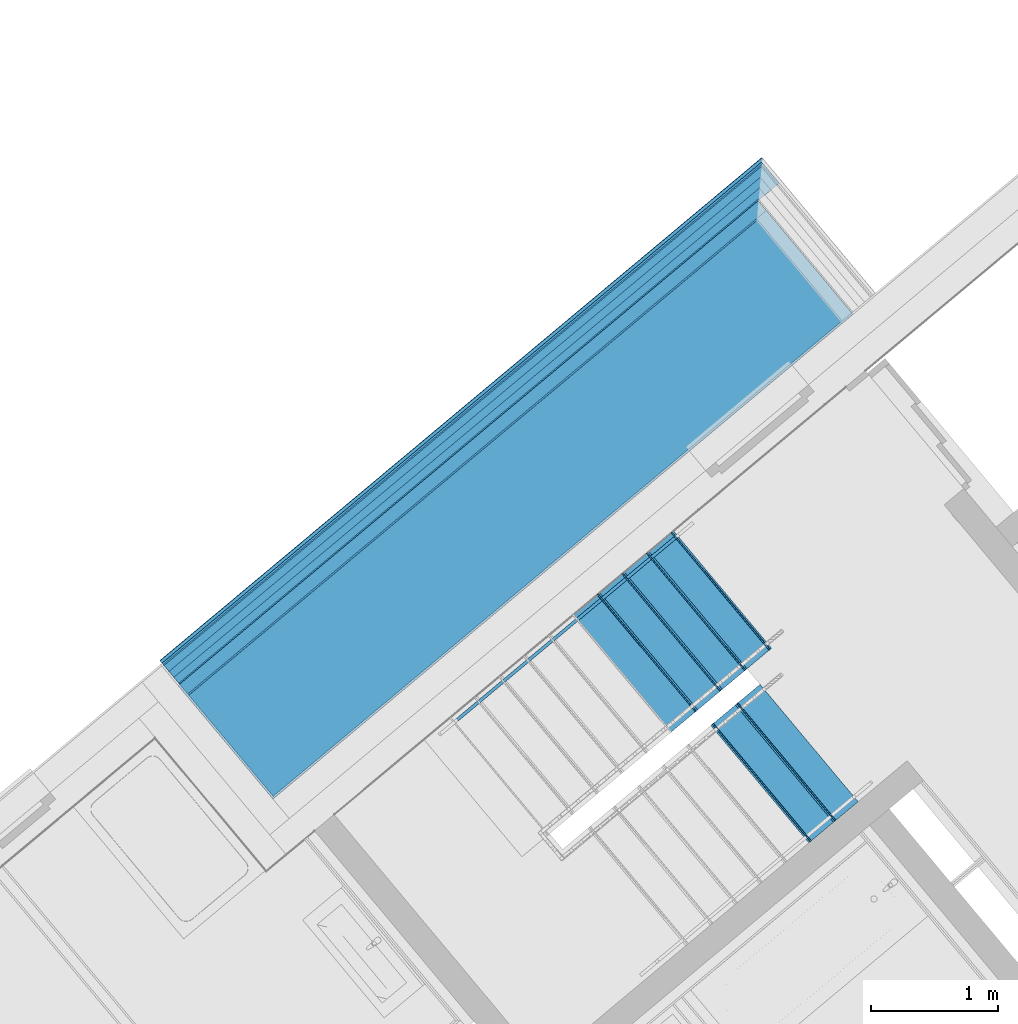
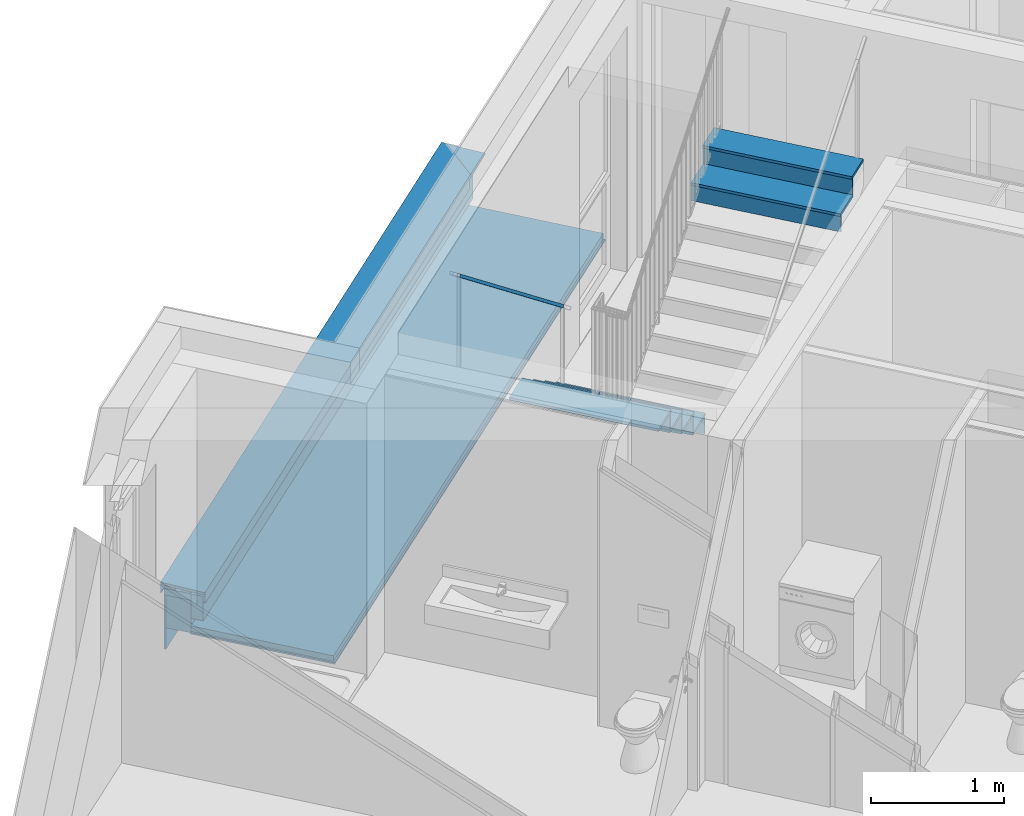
# One storey, part 33 of 53: 23 building element parts, 4 elements without a shape of their own.
"""IFC4 building model written with IfcOpenShell, lengths in metres."""

from ifc_helpers import new_model, entity, si_unit, converted_unit, derived_unit, direction, frame, origin_with_axes, place, context, subcontext, project, spatial, polygons, material, type_object, element, aggregate, save


model = new_model("IFC4")

# Units and contexts
model_context = context("Model", 3, precision=1e-05, world=origin_with_axes(), true_north=direction((0.0, 1.0)))
body_context = subcontext(model_context, "Body", "Model", "MODEL_VIEW")
ifc_project = project(units=[si_unit("LENGTHUNIT", "METRE"), si_unit("AREAUNIT", "SQUARE_METRE"), si_unit("VOLUMEUNIT", "CUBIC_METRE"), converted_unit("PLANEANGLEUNIT", "DEGREE", entity("IfcPlaneAngleMeasure", 0.0174532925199), si_unit("PLANEANGLEUNIT", "RADIAN"), dimensions=[0, 0, 0, 0, 0, 0, 0]), converted_unit("TIMEUNIT", "Year", entity("IfcTimeMeasure", 31556926.0), si_unit("TIMEUNIT", "SECOND"), dimensions=[0, 0, 1, 0, 0, 0, 0]), si_unit("MASSUNIT", "GRAM", prefix="KILO"), si_unit("THERMODYNAMICTEMPERATUREUNIT", "DEGREE_CELSIUS"), si_unit("LUMINOUSINTENSITYUNIT", "LUMEN"), si_unit("ENERGYUNIT", "JOULE", prefix="MEGA"), derived_unit("THERMALCONDUCTANCEUNIT", [(si_unit("POWERUNIT", "WATT"), 1), (si_unit("LENGTHUNIT", "METRE"), -1), (si_unit("THERMODYNAMICTEMPERATUREUNIT", "KELVIN"), -1)]), derived_unit("SPECIFICHEATCAPACITYUNIT", [(si_unit("ENERGYUNIT", "JOULE"), 1), (si_unit("MASSUNIT", "GRAM", prefix="KILO"), -1), (si_unit("THERMODYNAMICTEMPERATUREUNIT", "KELVIN"), -1)]), derived_unit("MASSDENSITYUNIT", [(si_unit("MASSUNIT", "GRAM", prefix="KILO"), 1), (si_unit("VOLUMEUNIT", "CUBIC_METRE"), -1)])], contexts=[model_context])

# Site, building, storey, space
site_placement = place(None, frame((-0.00153261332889, -0.00661245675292, 0.0), z_axis=(0.0, 0.0, 1.0), x_axis=(1.0, 0.0, 0.0)))
site = spatial("IfcSite", under=ifc_project, at=site_placement, Name="Gelände", CompositionType="ELEMENT")
building_placement = place(site_placement, origin_with_axes())
building = spatial("IfcBuilding", under=site, at=building_placement, Name="Gebäude", CompositionType="ELEMENT")
storey_placement = place(building_placement, frame((0.0, 0.0, 2.74), z_axis=(0.0, 0.0, 1.0), x_axis=(1.0, 0.0, 0.0)))
storey = spatial("IfcBuildingStorey", under=building, at=storey_placement, Name="OG1", CompositionType="ELEMENT", Elevation=2.74)
space_placement = place(storey_placement, frame((0.280300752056, 22.6307267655, 0.22), z_axis=(0.0, 0.0, 1.0), x_axis=(-0.641244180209, 0.767336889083, 0.0)))
space = spatial("IfcSpace", under=storey, at=space_placement, CompositionType="ELEMENT", PredefinedType="NOTDEFINED")

# Railing, building element part
railing_type = type_object("IfcRailingType", Name="Geländerart", PredefinedType="NOTDEFINED")
railing_placement = place(space_placement, frame((2.55982515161, -0.251805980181, -0.17), z_axis=(0.0, 0.0, 1.0), x_axis=(-0.641244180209, -0.767336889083, 0.0)))
railing = element("IfcRailing", 1, at=railing_placement, inside=space, type_object=railing_type, Name="Geländer - 001", PredefinedType="NOTDEFINED")
ifc_material_1 = material(Name="BEKLEIDUNG")
building_element_part_1_placement = place(railing_placement, origin_with_axes())
building_element_part_1 = element("IfcBuildingElementPart", 2, at=building_element_part_1_placement, material=ifc_material_1, Name="BEKLEIDUNG", PredefinedType="NOTDEFINED", context=body_context, shape_type="Tessellation", body=[
    polygons([(0.0240438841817, -0.0287774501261, 0.9), (0.0122290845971, -0.0386488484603, 0.880303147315), (-1.72609254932, -1.49103618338, 2.65089138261), (-1.71427774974, -1.48116478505, 2.67058823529), (0.0400731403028, -0.0479624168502, 0.9), (0.0282583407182, -0.0578338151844, 0.880303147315), (-1.7100632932, -1.5102211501, 2.65089138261), (-1.69824849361, -1.50034975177, 2.67058823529)], [[[1, 2, 3, 4]], [[1, 5, 6, 2]], [[2, 6, 7, 3]], [[4, 3, 7, 8]], [[5, 1, 4, 8]], [[6, 5, 8, 7]]], closed=True),
])
aggregate(railing, [building_element_part_1])

# Stair, building element parts
stair_type = type_object("IfcStairType", Name="Treppentyp", PredefinedType="NOTDEFINED")
stair_placement = place(space_placement, frame((2.55980055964, -0.50704333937, -0.17), z_axis=(0.0, 0.0, 1.0), x_axis=(-0.641244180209, -0.767336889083, 0.0)))
stair = element("IfcStair", 3, at=stair_placement, inside=space, type_object=stair_type, Name="Treppe - 001", PredefinedType="NOTDEFINED")
building_element_part_2_placement = place(stair_placement, origin_with_axes())
building_element_part_2 = element("IfcBuildingElementPart", 4, at=building_element_part_2_placement, material=ifc_material_1, Name="BEKLEIDUNG", PredefinedType="NOTDEFINED", context=body_context, shape_type="Tessellation", body=[
    polygons([(-0.207379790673, -0.173268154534, 0.152058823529), (-0.215053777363, -0.179679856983, 0.152058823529), (0.55435051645, -1.10055825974, 0.152058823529), (0.56202450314, -1.09414655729, 0.152058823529), (-0.207379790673, -0.173268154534, 0.0), (-0.215053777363, -0.179679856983, 0.0), (0.55435051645, -1.10055825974, 0.0), (0.56202450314, -1.09414655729, 0.0)], [[[1, 2, 3, 4]], [[1, 5, 6, 2]], [[2, 6, 7, 3]], [[4, 3, 7, 8]], [[5, 1, 4, 8]], [[6, 5, 8, 7]]], closed=True),
])
building_element_part_3_placement = place(stair_placement, origin_with_axes())
building_element_part_3 = element("IfcBuildingElementPart", 5, at=building_element_part_3_placement, material=ifc_material_1, Name="BEKLEIDUNG", PredefinedType="NOTDEFINED", context=body_context, shape_type="Tessellation", body=[
    polygons([(-0.400526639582, -0.334644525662, 0.329117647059), (-0.408200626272, -0.341056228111, 0.329117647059), (0.361203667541, -1.26193463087, 0.329117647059), (0.368877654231, -1.25552292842, 0.329117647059), (-0.400526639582, -0.334644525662, 0.177058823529), (-0.408200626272, -0.341056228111, 0.177058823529), (0.361203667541, -1.26193463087, 0.177058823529), (0.368877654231, -1.25552292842, 0.177058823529)], [[[1, 2, 3, 4]], [[1, 5, 6, 2]], [[2, 6, 7, 3]], [[4, 3, 7, 8]], [[5, 1, 4, 8]], [[6, 5, 8, 7]]], closed=True),
])
building_element_part_4_placement = place(stair_placement, origin_with_axes())
building_element_part_4 = element("IfcBuildingElementPart", 6, at=building_element_part_4_placement, material=ifc_material_1, Name="BEKLEIDUNG", PredefinedType="NOTDEFINED", context=body_context, shape_type="Tessellation", body=[
    polygons([(-0.593673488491, -0.49602089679, 0.506176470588), (-0.601347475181, -0.502432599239, 0.506176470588), (0.168056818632, -1.42331100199, 0.506176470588), (0.175730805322, -1.41689929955, 0.506176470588), (-0.593673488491, -0.49602089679, 0.354117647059), (-0.601347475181, -0.502432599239, 0.354117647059), (0.168056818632, -1.42331100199, 0.354117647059), (0.175730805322, -1.41689929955, 0.354117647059)], [[[1, 2, 3, 4]], [[1, 5, 6, 2]], [[2, 6, 7, 3]], [[4, 3, 7, 8]], [[5, 1, 4, 8]], [[6, 5, 8, 7]]], closed=True),
])
building_element_part_5_placement = place(stair_placement, origin_with_axes())
building_element_part_5 = element("IfcBuildingElementPart", 7, at=building_element_part_5_placement, material=ifc_material_1, Name="BEKLEIDUNG", PredefinedType="NOTDEFINED", context=body_context, shape_type="Tessellation", body=[
    polygons([(-0.7868203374, -0.657397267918, 0.683235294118), (-0.794494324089, -0.663808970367, 0.683235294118), (-0.0250900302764, -1.58468737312, 0.683235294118), (-0.0174160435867, -1.57827567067, 0.683235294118), (-0.7868203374, -0.657397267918, 0.531176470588), (-0.794494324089, -0.663808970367, 0.531176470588), (-0.0250900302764, -1.58468737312, 0.531176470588), (-0.0174160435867, -1.57827567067, 0.531176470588)], [[[1, 2, 3, 4]], [[1, 5, 6, 2]], [[2, 6, 7, 3]], [[4, 3, 7, 8]], [[5, 1, 4, 8]], [[6, 5, 8, 7]]], closed=True),
])
building_element_part_6_placement = place(stair_placement, origin_with_axes())
building_element_part_6 = element("IfcBuildingElementPart", 8, at=building_element_part_6_placement, material=ifc_material_1, Name="BEKLEIDUNG", PredefinedType="NOTDEFINED", context=body_context, shape_type="Tessellation", body=[
    polygons([(0.877617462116, -2.60252235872, 2.80794117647), (0.885291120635, -2.59611026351, 2.80794117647), (0.115839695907, -1.67527124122, 2.80794117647), (0.108166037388, -1.68168333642, 2.80794117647), (0.877617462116, -2.60252235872, 2.65588235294), (0.885291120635, -2.59611026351, 2.65588235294), (0.115839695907, -1.67527124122, 2.65588235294), (0.108166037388, -1.68168333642, 2.65588235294)], [[[1, 2, 3, 4]], [[1, 5, 6, 2]], [[2, 6, 7, 3]], [[4, 3, 7, 8]], [[5, 1, 4, 8]], [[6, 5, 8, 7]]], closed=True),
])
building_element_part_7_placement = place(stair_placement, origin_with_axes())
building_element_part_7 = element("IfcBuildingElementPart", 9, at=building_element_part_7_placement, material=ifc_material_1, Name="BEKLEIDUNG", PredefinedType="NOTDEFINED", context=body_context, shape_type="Tessellation", body=[
    polygons([(1.07075605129, -2.44113610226, 2.985), (1.07842970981, -2.43472400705, 2.985), (0.30897828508, -1.51388498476, 2.985), (0.301304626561, -1.52029707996, 2.985), (1.07075605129, -2.44113610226, 2.83294117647), (1.07842970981, -2.43472400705, 2.83294117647), (0.30897828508, -1.51388498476, 2.83294117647), (0.301304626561, -1.52029707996, 2.83294117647)], [[[1, 2, 3, 4]], [[1, 5, 6, 2]], [[2, 6, 7, 3]], [[4, 3, 7, 8]], [[5, 1, 4, 8]], [[6, 5, 8, 7]]], closed=True),
])
building_element_part_8_placement = place(stair_placement, origin_with_axes())
building_element_part_8 = element("IfcBuildingElementPart", 10, at=building_element_part_8_placement, material=ifc_material_1, Name="BEKLEIDUNG", PredefinedType="NOTDEFINED", context=body_context, shape_type="Tessellation", body=[
    polygons([(0.573535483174, -1.08452900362, 0.152058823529), (-0.195868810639, -0.163650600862, 0.152058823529), (-0.195868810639, -0.163650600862, 0.177058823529), (0.573535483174, -1.08452900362, 0.177058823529), (0.361203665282, -1.26193463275, 0.152058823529), (-0.408200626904, -0.341056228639, 0.152058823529), (-0.408200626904, -0.341056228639, 0.177058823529), (0.361203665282, -1.26193463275, 0.177058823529)], [[[1, 2, 3, 4]], [[1, 5, 6, 2]], [[2, 6, 7, 3]], [[4, 3, 7, 8]], [[5, 1, 4, 8]], [[6, 5, 8, 7]]], closed=True),
])
building_element_part_9_placement = place(stair_placement, origin_with_axes())
building_element_part_9 = element("IfcBuildingElementPart", 11, at=building_element_part_9_placement, material=ifc_material_1, Name="BEKLEIDUNG", PredefinedType="NOTDEFINED", context=body_context, shape_type="Tessellation", body=[
    polygons([(0.380388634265, -1.24590537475, 0.329117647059), (-0.389015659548, -0.32502697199, 0.329117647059), (-0.389015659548, -0.32502697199, 0.354117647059), (0.380388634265, -1.24590537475, 0.354117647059), (0.168056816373, -1.42331100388, 0.329117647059), (-0.601347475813, -0.502432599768, 0.329117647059), (-0.601347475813, -0.502432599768, 0.354117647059), (0.168056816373, -1.42331100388, 0.354117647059)], [[[1, 2, 3, 4]], [[1, 5, 6, 2]], [[2, 6, 7, 3]], [[4, 3, 7, 8]], [[5, 1, 4, 8]], [[6, 5, 8, 7]]], closed=True),
])
building_element_part_10_placement = place(stair_placement, origin_with_axes())
building_element_part_10 = element("IfcBuildingElementPart", 12, at=building_element_part_10_placement, material=ifc_material_1, Name="BEKLEIDUNG", PredefinedType="NOTDEFINED", context=body_context, shape_type="Tessellation", body=[
    polygons([(0.187241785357, -1.40728174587, 0.506176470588), (-0.582162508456, -0.486403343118, 0.506176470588), (-0.582162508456, -0.486403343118, 0.531176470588), (0.187241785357, -1.40728174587, 0.531176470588), (-0.0250900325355, -1.58468737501, 0.506176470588), (-0.794494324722, -0.663808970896, 0.506176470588), (-0.794494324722, -0.663808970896, 0.531176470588), (-0.0250900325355, -1.58468737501, 0.531176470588)], [[[1, 2, 3, 4]], [[1, 5, 6, 2]], [[2, 6, 7, 3]], [[4, 3, 7, 8]], [[5, 1, 4, 8]], [[6, 5, 8, 7]]], closed=True),
])
building_element_part_11_placement = place(stair_placement, origin_with_axes())
building_element_part_11 = element("IfcBuildingElementPart", 13, at=building_element_part_11_placement, material=ifc_material_1, Name="BEKLEIDUNG", PredefinedType="NOTDEFINED", context=body_context, shape_type="Tessellation", body=[
    polygons([(-0.00590506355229, -1.568658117, 0.683235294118), (-0.775309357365, -0.647779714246, 0.683235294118), (-0.775309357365, -0.647779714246, 0.708235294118), (-0.00590506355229, -1.568658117, 0.708235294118), (-0.218236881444, -1.74606374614, 0.683235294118), (-0.987641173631, -0.825185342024, 0.683235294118), (-0.987641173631, -0.825185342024, 0.708235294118), (-0.218236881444, -1.74606374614, 0.708235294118)], [[[1, 2, 3, 4]], [[1, 5, 6, 2]], [[2, 6, 7, 3]], [[4, 3, 7, 8]], [[5, 1, 4, 8]], [[6, 5, 8, 7]]], closed=True),
])
building_element_part_12_placement = place(stair_placement, origin_with_axes())
building_element_part_12 = element("IfcBuildingElementPart", 14, at=building_element_part_12_placement, material=ifc_material_1, Name="BEKLEIDUNG", PredefinedType="NOTDEFINED", context=body_context, shape_type="Tessellation", body=[
    polygons([(0.0966555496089, -1.69130147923, 2.80794117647), (0.866106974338, -2.61214050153, 2.80794117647), (0.866106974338, -2.61214050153, 2.83294117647), (0.0966555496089, -1.69130147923, 2.83294117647), (0.308978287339, -1.51388498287, 2.80794117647), (1.07842971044, -2.43472400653, 2.80794117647), (1.07842971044, -2.43472400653, 2.83294117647), (0.308978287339, -1.51388498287, 2.83294117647)], [[[1, 2, 3, 4]], [[1, 5, 6, 2]], [[2, 6, 7, 3]], [[4, 3, 7, 8]], [[5, 1, 4, 8]], [[6, 5, 8, 7]]], closed=True),
])
building_element_part_13_placement = place(stair_placement, origin_with_axes())
building_element_part_13 = element("IfcBuildingElementPart", 15, at=building_element_part_13_placement, material=ifc_material_1, Name="BEKLEIDUNG", PredefinedType="NOTDEFINED", context=body_context, shape_type="Tessellation", body=[
    polygons([(0.289794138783, -1.52991522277, 2.985), (1.05924556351, -2.45075424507, 2.985), (1.05924556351, -2.45075424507, 3.01), (0.289794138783, -1.52991522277, 3.01), (0.482932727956, -1.36852896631, 2.985), (1.25238415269, -2.28936798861, 2.985), (1.25238415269, -2.28936798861, 3.01), (0.482932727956, -1.36852896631, 3.01)], [[[1, 2, 3, 4]], [[1, 5, 6, 2]], [[2, 6, 7, 3]], [[4, 3, 7, 8]], [[5, 1, 4, 8]], [[6, 5, 8, 7]]], closed=True),
])
aggregate(stair, [building_element_part_2, building_element_part_3, building_element_part_4, building_element_part_5, building_element_part_6, building_element_part_7, building_element_part_8, building_element_part_9, building_element_part_10, building_element_part_11, building_element_part_12, building_element_part_13])

# Wall, building element parts
wall_type = type_object("IfcWallType", Name="Bauteil - Attika Balkon 356 x 610", PredefinedType="NOTDEFINED")
wall_placement = place(storey_placement, frame((-5.04439151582, 23.5527984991, -0.2), z_axis=(0.0, 0.0, 1.0), x_axis=(0.767365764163, 0.641209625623, 0.0)))
wall = element("IfcWall", 16, at=wall_placement, inside=storey, type_object=wall_type, Name="Wand-002", PredefinedType="NOTDEFINED")
ifc_material_2 = material(Name="Zementputz")
building_element_part_14_placement = place(wall_placement, origin_with_axes())
building_element_part_14 = element("IfcBuildingElementPart", 17, at=building_element_part_14_placement, material=ifc_material_2, Name="Zementputz", PredefinedType="NOTDEFINED", context=body_context, shape_type="Tessellation", body=[
    polygons([(6.13190948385, 0.199999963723, 0.200000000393), (6.13190948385, 0.199999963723, 0.499999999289), (0.0, 0.199999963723, 0.500000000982), (0.0, 0.199999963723, 0.200000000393), (6.13190948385, 0.199999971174, 0.0), (6.13190921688, 0.214999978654, 0.0), (6.13190921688, 0.214999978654, 0.499999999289), (0.0, 0.214999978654, 0.500000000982), (0.0, 0.214999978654, 0.0), (0.0, 0.199999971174, 0.0)], [[[1, 2, 3, 4]], [[2, 1, 5, 6, 7]], [[2, 7, 8, 3]], [[3, 8, 9, 10, 4]], [[5, 1, 4, 10]], [[6, 5, 10, 9]], [[7, 6, 9, 8]]], closed=True),
])
ifc_material_3 = material(Name="Vollholz")
building_element_part_15_placement = place(wall_placement, origin_with_axes())
building_element_part_15 = element("IfcBuildingElementPart", 18, at=building_element_part_15_placement, material=ifc_material_3, Name="Vollholz", PredefinedType="NOTDEFINED", context=body_context, shape_type="Tessellation", body=[
    polygons([(6.10690581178, 0.189996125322, 0.584015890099), (6.10690687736, 0.130124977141, 0.584015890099), (6.10691811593, 0.130124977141, 0.581921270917), (6.10691705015, 0.190007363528, 0.581921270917), (6.10689467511, 0.189984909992, 0.586106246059), (6.10695215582, 0.130124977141, 0.575576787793), (6.10692937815, 0.130124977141, 0.57982217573), (0.0, 0.130124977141, 0.584015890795), (0.0, 0.130124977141, 0.560000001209), (6.10703572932, 0.130124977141, 0.560000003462), (6.10692831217, 0.190018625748, 0.57982217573), (6.10695108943, 0.190041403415, 0.575576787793), (6.10703466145, 0.190124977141, 0.560000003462), (0.0, 0.190124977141, 0.560000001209), (0.0, 0.189984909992, 0.586106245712)], [[[1, 2, 3, 4]], [[5, 2, 1]], [[6, 7, 3, 2, 8, 9, 10]], [[7, 11, 4, 3]], [[5, 1, 4, 11, 12, 13, 14, 15]], [[2, 5, 15, 8]], [[11, 7, 6, 12]], [[15, 14, 9, 8]], [[13, 10, 9, 14]], [[10, 13, 12, 6]]], closed=True),
])
ifc_material_4 = material(Name="Brettschichtholz")
building_element_part_16_placement = place(wall_placement, origin_with_axes())
building_element_part_16 = element("IfcBuildingElementPart", 19, at=building_element_part_16_placement, material=ifc_material_4, Name="Brettschichtholz", PredefinedType="NOTDEFINED", context=body_context, shape_type="Tessellation", body=[
    polygons([(6.13191304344, 0.0, 0.519273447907), (6.13191304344, 0.0, 0.56000000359), (0.0, 0.0, 0.560000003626), (0.0, 0.0, 0.499999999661), (6.13191304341, 0.0, 0.499999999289), (6.13191304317, 0.0, 0.509099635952), (6.13191304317, 0.0, 0.511410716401), (6.13191286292, 0.010142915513, 0.56000000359), (6.1319092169, 0.214999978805, 0.519273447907), (6.1319092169, 0.214999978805, 0.56000000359), (6.13190965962, 0.190124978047, 0.56000000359), (6.13191072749, 0.130124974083, 0.56000000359), (6.13191179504, 0.0701429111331, 0.56000000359), (0.0, 0.010142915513, 0.559999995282), (0.0, 0.130124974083, 0.559999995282), (0.0, 0.190124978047, 0.559999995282), (0.0, 0.214999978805, 0.560000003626), (0.0, 0.214999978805, 0.499999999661), (0.0, 0.0701429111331, 0.559999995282), (6.13190921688, 0.214999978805, 0.499999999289), (6.13190921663, 0.214999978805, 0.509099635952), (6.13190921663, 0.214999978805, 0.511410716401)], [[[1, 2, 3, 4, 5, 6, 7]], [[8, 2, 1, 9, 10, 11, 12, 13]], [[2, 8, 14, 3]], [[15, 16, 17, 18, 4, 3, 14, 19]], [[18, 20, 5, 4]], [[21, 6, 5, 20]], [[22, 7, 6, 21]], [[9, 1, 7, 22]], [[10, 9, 22, 21, 20, 18, 17]], [[11, 10, 17, 16]], [[12, 11, 16, 15]], [[13, 12, 15, 19]], [[8, 13, 19, 14]]], closed=True),
])
ifc_material_5 = material(Name="Stahlbeton")
building_element_part_17_placement = place(wall_placement, origin_with_axes())
building_element_part_17 = element("IfcBuildingElementPart", 20, at=building_element_part_17_placement, material=ifc_material_5, Name="Stahlbeton", PredefinedType="NOTDEFINED", context=body_context, shape_type="Tessellation", body=[
    polygons([(6.11691302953, 1.05296749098e-09, 0.498915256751), (6.11691302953, 1.05296749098e-09, 0.500000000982), (0.0, 1.05297104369e-09, 0.500000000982), (0.0, 1.05297104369e-09, 0.335000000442), (6.11691302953, 1.05296749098e-09, 0.334999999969), (6.11691302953, 1.05296749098e-09, 0.496604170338), (6.11690946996, 0.19999996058, 0.500000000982), (6.11690946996, 0.19999996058, 0.498915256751), (0.0, 0.19999996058, 0.500000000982), (0.0, 0.19999996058, 0.2), (0.0, 1.05297104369e-09, 0.2), (6.11691302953, 1.05296749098e-09, 0.2), (6.11690946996, 0.19999996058, 0.496604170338), (6.11690946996, 0.19999996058, 0.334999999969), (6.11690946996, 0.19999996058, 0.2)], [[[1, 2, 3, 4, 5, 6]], [[7, 2, 1, 8]], [[2, 7, 9, 3]], [[3, 9, 10, 11, 4]], [[12, 5, 4, 11]], [[13, 6, 5, 14]], [[8, 1, 6, 13]], [[7, 8, 13, 14, 15, 10, 9]], [[15, 12, 11, 10]], [[14, 5, 12, 15]]], closed=True),
])
building_element_part_18_placement = place(wall_placement, origin_with_axes())
building_element_part_18 = element("IfcBuildingElementPart", 21, at=building_element_part_18_placement, material=ifc_material_3, Name="Vollholz", PredefinedType="NOTDEFINED", context=body_context, shape_type="Tessellation", body=[
    polygons([(5.98705472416, 0.0701429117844, 0.57982217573), (5.98705579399, 0.0100326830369, 0.57982217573), (5.98705579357, 0.0100562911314, 0.575576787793), (5.98705472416, 0.0701429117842, 0.575576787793), (5.98705472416, 0.0701429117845, 0.581921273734), (0.0, 0.0100326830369, 0.579822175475), (0.0, 0.0101429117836, 0.560000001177), (5.98705579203, 0.0101429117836, 0.560000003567), (5.98705472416, 0.0701429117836, 0.560000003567), (0.0, 0.0701429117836, 0.560000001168), (0.0, 0.0701429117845, 0.581921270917)], [[[1, 2, 3, 4]], [[5, 2, 1]], [[2, 6, 7, 8, 3]], [[4, 3, 8, 9]], [[5, 1, 4, 9, 10, 11]], [[2, 5, 11, 6]], [[7, 6, 11, 10]], [[9, 8, 7, 10]]], closed=True),
])
ifc_material_6 = material(Name="EPS 1")
building_element_part_19_placement = place(wall_placement, origin_with_axes())
building_element_part_19 = element("IfcBuildingElementPart", 22, at=building_element_part_19_placement, material=ifc_material_6, Name="EPS 1", PredefinedType="NOTDEFINED", context=body_context, shape_type="Tessellation", body=[
    polygons([(5.91691484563, -0.0999999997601, 0.519273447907), (5.91691484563, -0.0999999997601, 0.560000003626), (0.0, -0.0999999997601, 0.560000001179), (0.0, -0.0999999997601, 0.334999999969), (5.91691484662, -0.0999999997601, 0.334999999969), (5.91691484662, -0.0999999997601, 0.496604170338), (5.91691484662, -0.0999999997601, 0.498915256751), (5.91691484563, -0.0999999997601, 0.499999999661), (5.91691484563, -0.0999999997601, 0.506731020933), (5.91691484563, -0.0999999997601, 0.509099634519), (5.91691484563, -0.0999999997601, 0.511410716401), (5.91691306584, 2.39911202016e-10, 0.560000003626), (5.91691306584, 2.39911202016e-10, 0.519273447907), (0.0, 2.39907649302e-10, 0.560000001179), (0.0, 2.39907649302e-10, 0.334999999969), (5.91691306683, 2.39904096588e-10, 0.334999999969), (5.91691306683, 2.39911202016e-10, 0.496604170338), (5.91691306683, 2.39911202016e-10, 0.498915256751), (5.91691306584, 2.39893438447e-10, 0.499999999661), (5.91691306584, 2.39911202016e-10, 0.506731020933), (5.91691306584, 2.39911202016e-10, 0.509099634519), (5.91691306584, 2.39911202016e-10, 0.511410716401)], [[[1, 2, 3, 4, 5, 6, 7, 8, 9, 10, 11]], [[12, 2, 1, 13]], [[2, 12, 14, 3]], [[4, 3, 14, 15]], [[16, 5, 4, 15]], [[17, 6, 5, 16]], [[18, 7, 6, 17]], [[19, 8, 7, 18]], [[20, 9, 8, 19]], [[21, 10, 9, 20]], [[22, 11, 10, 21]], [[13, 1, 11, 22]], [[12, 13, 22, 21, 20, 19, 18, 17, 16, 15, 14]]], closed=True),
])
ifc_material_7 = material(Name="Holzwerkstoff")
building_element_part_20_placement = place(wall_placement, origin_with_axes())
building_element_part_20 = element("IfcBuildingElementPart", 23, at=building_element_part_20_placement, material=ifc_material_7, Name="Holzwerkstoff", PredefinedType="NOTDEFINED", context=body_context, shape_type="Tessellation", body=[
    polygons([(0.0, -0.111539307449, 0.575576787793), (0.0, 0.0100326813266, 0.579822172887), (5.92694548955, 0.0100326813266, 0.579822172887), (5.80537573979, -0.111539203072, 0.575576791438), (0.0, -0.112247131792, 0.5958462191), (0.0, 0.23927649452, 0.608570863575), (0.0, 0.23999998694, 0.587852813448), (0.0, 0.189984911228, 0.586106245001), (0.0, 0.13012497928, 0.584015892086), (0.0, 0.0701429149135, 0.581921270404), (5.98705471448, 0.0701429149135, 0.581921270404), (5.92694773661, -0.111687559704, 0.579822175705), (5.98705796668, -0.111760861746, 0.581921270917), (6.0470400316, -0.11183400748, 0.584015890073), (6.10689996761, -0.111907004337, 0.586106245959), (6.15691504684, -0.111967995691, 0.587852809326), (6.15663591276, -0.112247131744, 0.595846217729), (6.15618529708, 0.23927649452, 0.608570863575), (6.15662964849, 0.239720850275, 0.595846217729), (6.15690878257, 0.239999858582, 0.587852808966), (6.10689456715, 0.189984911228, 0.586106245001), (6.04703572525, 0.130124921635, 0.584015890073)], [[[1, 2, 3, 4]], [[1, 5, 6, 7, 8, 9, 10, 2]], [[2, 10, 11, 3]], [[12, 4, 3]], [[5, 1, 4, 12, 13, 14, 15, 16, 17]], [[6, 5, 17, 18]], [[7, 6, 18, 19, 20]], [[8, 7, 20, 21]], [[9, 8, 21, 22]], [[10, 9, 22, 11]], [[13, 12, 3, 11]], [[14, 13, 11, 22]], [[14, 22, 21, 15]], [[21, 20, 16, 15]], [[20, 19, 17, 16]], [[19, 18, 17]]], closed=True),
])
ifc_material_8 = material(Name="Stahl")
building_element_part_21_placement = place(wall_placement, origin_with_axes())
building_element_part_21 = element("IfcBuildingElementPart", 24, at=building_element_part_21_placement, material=ifc_material_8, Name="Stahl", PredefinedType="NOTDEFINED", context=body_context, shape_type="Tessellation", body=[
    polygons([(0.0, -0.113600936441, 0.597151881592), (0.0, -0.113600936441, 0.497561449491), (5.80522870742, -0.113600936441, 0.497561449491), (5.80658251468, -0.11360093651, 0.498915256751), (5.80466795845, -0.11360093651, 0.498915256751), (5.80466795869, -0.11360093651, 0.499999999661), (5.80466795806, -0.11360093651, 0.506731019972), (5.80466795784, -0.11360093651, 0.509099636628), (5.80466795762, -0.11360093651, 0.511410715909), (5.80466795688, -0.1136009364, 0.519273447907), (5.80466795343, -0.11360093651, 0.560000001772), (5.8046679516, -0.11360093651, 0.575576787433), (5.8046679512, -0.11360093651, 0.579822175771), (5.80466795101, -0.11360093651, 0.581921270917), (5.80466795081, -0.11360093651, 0.584015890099), (5.80466795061, -0.11360093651, 0.586106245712), (5.80466795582, -0.11360093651, 0.5958462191), (5.84073751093, -0.11360093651, 0.597151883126), (0.0, -0.112643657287, 0.496604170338), (0.0, 0.242707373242, 0.610055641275), (0.0, 0.242707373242, 0.510056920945), (0.0, 0.241750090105, 0.509099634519), (0.0, 0.232580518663, 0.518269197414), (0.0, 0.233490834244, 0.519273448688), (0.0, 0.241353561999, 0.511410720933), (0.0, 0.24135992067, 0.60865214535), (0.0, 0.23927649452, 0.608570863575), (0.0, -0.112247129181, 0.595846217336), (0.0, -0.112247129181, 0.498915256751), (0.0, -0.104431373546, 0.506731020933), (0.0, -0.103427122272, 0.505820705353), (5.80427141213, -0.112643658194, 0.496604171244), (5.80658245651, -0.110332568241, 0.498915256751), (5.80658249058, -0.112247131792, 0.498915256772), (5.80466793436, -0.112247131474, 0.498915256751), (5.8046679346, -0.112247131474, 0.499999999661), (5.80466793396, -0.112247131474, 0.506731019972), (5.80466793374, -0.112247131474, 0.509099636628), (5.80466793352, -0.112247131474, 0.511410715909), (5.80466793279, -0.112247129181, 0.519273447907), (5.80466792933, -0.112247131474, 0.560000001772), (5.80466792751, -0.112247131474, 0.575576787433), (5.80466792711, -0.112247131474, 0.579822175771), (5.80466792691, -0.112247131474, 0.581921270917), (5.80466792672, -0.112247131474, 0.584015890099), (5.80466792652, -0.112247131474, 0.586106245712), (5.80466793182, -0.112247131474, 0.595846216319), (6.15618529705, 0.239276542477, 0.608570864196), (6.15618596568, 0.201708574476, 0.608570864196), (6.15826935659, 0.203952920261, 0.608652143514), (6.15961680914, 0.203952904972, 0.60865214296), (6.15961611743, 0.242707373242, 0.610055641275), (6.15961611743, 0.242707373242, 0.510056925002), (6.15865885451, 0.241750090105, 0.509099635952), (6.15961615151, 0.24079279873, 0.510056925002), (6.15961617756, 0.23943900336, 0.511410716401), (6.15826236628, 0.239438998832, 0.511410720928), (6.15140400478, 0.232580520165, 0.518269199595), (6.1503997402, 0.233490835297, 0.519273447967), (6.1582623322, 0.24135356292, 0.511410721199), (6.15961614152, 0.241353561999, 0.511410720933), (6.15961614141, 0.24135992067, 0.60865214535), (6.15826869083, 0.2413599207, 0.608652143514), (5.80766721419, -0.111162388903, 0.499999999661), (5.81348781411, -0.105341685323, 0.505820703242), (5.81248354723, -0.104431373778, 0.506731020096), (5.81348778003, -0.103427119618, 0.505820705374), (5.80766718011, -0.109247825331, 0.499999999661)], [[[1, 2, 3, 4, 5, 6, 7, 8, 9, 10, 11, 12, 13, 14, 15, 16, 17, 18]], [[19, 2, 1, 20, 21, 22, 23, 24, 25, 26, 27, 28, 29, 30, 31]], [[2, 19, 32, 3]], [[32, 33, 34, 4, 3]], [[35, 5, 4, 34]], [[6, 5, 35, 36]], [[7, 6, 36, 37]], [[8, 7, 37, 38]], [[9, 8, 38, 39]], [[10, 9, 39, 40]], [[11, 10, 40, 41]], [[41, 42, 12, 11]], [[42, 43, 13, 12]], [[43, 44, 14, 13]], [[44, 45, 15, 14]], [[45, 46, 16, 15]], [[46, 47, 17, 16]], [[17, 47, 48, 49, 18]], [[20, 1, 18, 49, 50, 51, 52]], [[21, 20, 52, 53]], [[22, 21, 53, 54]], [[23, 22, 54, 55, 56, 57, 58]], [[24, 23, 58, 59]], [[25, 24, 59, 60]], [[26, 25, 60, 61, 62, 63]], [[27, 26, 63, 48]], [[28, 27, 48, 47]], [[29, 28, 47, 46, 45, 44, 43, 42, 41, 40, 39, 38, 37, 36, 35]], [[30, 29, 35, 34, 64, 65, 66]], [[31, 30, 66, 67]], [[19, 31, 67, 68, 33, 32]], [[34, 33, 68, 64]], [[49, 48, 63, 50]], [[50, 63, 62, 51]], [[51, 62, 61, 56, 55, 53, 52]], [[55, 54, 53]], [[57, 56, 61, 60]], [[60, 59, 58, 57]], [[64, 68, 67, 65]], [[67, 66, 65]]], closed=True),
])
aggregate(wall, [building_element_part_14, building_element_part_15, building_element_part_16, building_element_part_17, building_element_part_18, building_element_part_19, building_element_part_20, building_element_part_21])

# Covering, building element parts
covering_type = type_object("IfcCoveringType", Name="Balkon Vordach 65", PredefinedType="NOTDEFINED")
covering_placement = place(storey_placement, frame((-0.503210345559, 27.3459209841, 0.0), z_axis=(0.0, 0.0, 1.0), x_axis=(1.0, 0.0, 0.0)))
covering = element("IfcCovering", 25, at=covering_placement, inside=storey, type_object=covering_type, Name="Decke-005", PredefinedType="NOTDEFINED")
ifc_material_9 = material(Name="Kies")
building_element_part_22_placement = place(covering_placement, origin_with_axes())
building_element_part_22 = element("IfcBuildingElementPart", 26, at=building_element_part_22_placement, material=ifc_material_9, Name="Kies", PredefinedType="NOTDEFINED", context=body_context, shape_type="Tessellation", body=[
    polygons([(-4.54117935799, -3.79312465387, 0.065), (-3.80607695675, -4.67286330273, 0.065), (0.734379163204, -0.878866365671, 0.065), (0.0, 0.0, 0.065), (-3.80607695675, -4.67286330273, 0.015), (-4.54117935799, -3.79312465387, 0.015), (0.734379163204, -0.878866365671, 0.015), (0.0, 0.0, 0.015)], [[[1, 2, 3, 4]], [[5, 2, 1, 6]], [[2, 5, 7, 3]], [[3, 7, 8, 4]], [[6, 1, 4, 8]], [[5, 6, 8, 7]]], closed=True),
])
ifc_material_10 = material(Name="Sperrschicht")
building_element_part_23_placement = place(covering_placement, origin_with_axes())
building_element_part_23 = element("IfcBuildingElementPart", 27, at=building_element_part_23_placement, material=ifc_material_10, Name="Sperrschicht", PredefinedType="NOTDEFINED", context=body_context, shape_type="Tessellation", body=[
    polygons([(0.0, 0.0, 0.0), (-4.55269169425, -3.80274059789, 0.0), (-4.55269169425, -3.80274059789, 0.015), (0.0, 0.0, 0.015), (0.74399731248, -0.89037686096, 0.0), (-3.80796930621, -4.69399196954, 0.0), (-3.80796930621, -4.69399196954, 0.015), (0.74399731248, -0.89037686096, 0.015)], [[[1, 2, 3, 4]], [[1, 5, 6, 2]], [[2, 6, 7, 3]], [[4, 3, 7, 8]], [[5, 1, 4, 8]], [[6, 5, 8, 7]]], closed=True),
])
aggregate(covering, [building_element_part_22, building_element_part_23])

save(model, "model.ifc")
